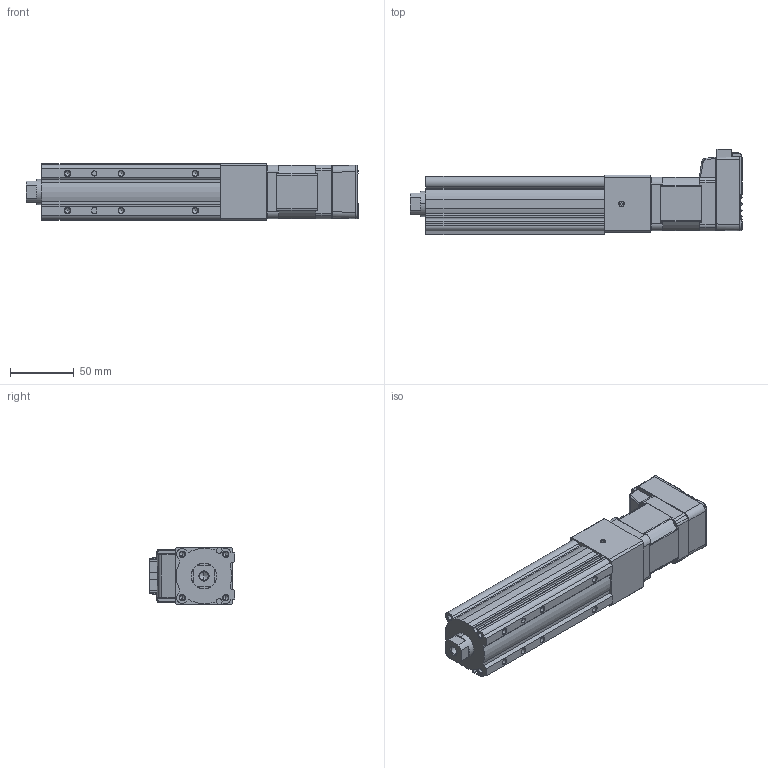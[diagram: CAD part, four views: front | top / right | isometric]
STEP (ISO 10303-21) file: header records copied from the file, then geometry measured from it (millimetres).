
FILE_DESCRIPTION (( 'STEP AP214' ), '1' );
FILE_NAME ('LEY3(+)-25DNM1□-50-17L.STEP', '2023-04-06T06:40:19', ( '' ), ( '' ), 'SwSTEP 2.0', 'SolidWorks 2019', '' );
FILE_SCHEMA (( 'AUTOMOTIVE_DESIGN' ));
Length unit declared in the file: millimetre
Products named in the file (5): LEY3(+)-25DNM1□-50-17L; LEY3(+)-25NM1?_ROD_50; LEY3(+)-25DNM1_MOTOR Flange; LEY3(+)-25NM1?_BODY_50; CM3(+)-17L50A
Assembly tree (4 placements, depth 2):
  LEY3(+)-25DNM1□-50-17L
    LEY3(+)-25NM1?_BODY_50
    LEY3(+)-25NM1?_ROD_50
    LEY3(+)-25DNM1_MOTOR Flange
    CM3(+)-17L50A
Bounding box: 259.8 x 66.75 x 45 mm (x, y, z)
Volume: 437026.2 mm3; surface area: 83144.3 mm2
Topology: 4 solids, 4 shells, 878 faces, 2218 edges, 1385 vertices
Faces by surface type: plane 460, cylinder 245, cone 94, bspline 29, torus 29, sphere 21
Full cylindrical faces by diameter (mm): 2.5 x4, 3.5 x4, 4 x1, 4.2 x6, 5 x1, 8 x1, 11 x1, 22 x1, 33 x1
Entity records: 36750 total; most frequent: CARTESIAN_POINT 6496, ORIENTED_EDGE 4284, DIRECTION 4139, EDGE_CURVE 2142, AXIS2_PLACEMENT_3D 1383, VERTEX_POINT 1375, LINE 1373, VECTOR 1373
